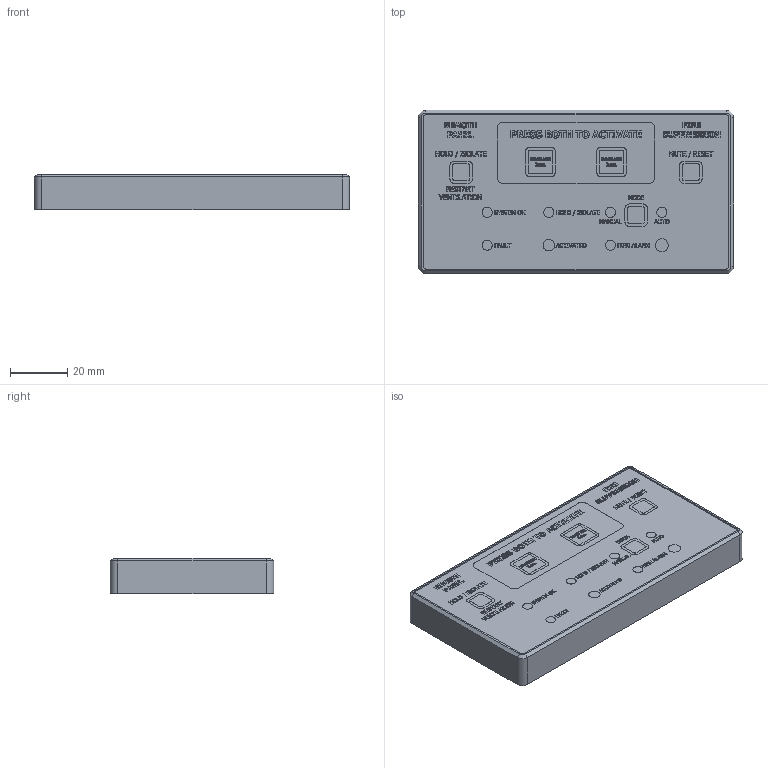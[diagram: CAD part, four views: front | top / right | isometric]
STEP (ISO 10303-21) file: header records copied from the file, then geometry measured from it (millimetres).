
FILE_DESCRIPTION(/* description */ ('FS10 Remote Panel'),/* implementation_level */ '2;1');
FILE_NAME(/* name */ '2878010012610.stp',/* time_stamp */ '2026-06-20T21:35:49+02:00',/* author */ ('tokti'),/* organization */ (''),/* preprocessor_version */ 'ST-DEVELOPER v20.1',/* originating_system */ 'Autodesk Inventor 2026',/* authorisation */ '');
FILE_SCHEMA (('AUTOMOTIVE_DESIGN { 1 0 10303 214 3 1 1 }'));
Products named in the file (3): 2878010012610; 287898010012609; 287898990012608
Assembly tree (2 placements, depth 2):
  2878010012610
    287898010012609
    287898990012608
Bounding box: 110 x 57 x 12.5 mm (x, y, z)
Volume: 75078.6 mm3; surface area: 29109.3 mm2
Topology: 7 solids, 7 shells, 2540 faces, 6863 edges, 4572 vertices
Faces by surface type: plane 1657, bspline 811, cylinder 66, cone 6
Full cylindrical faces by diameter (mm): 3.5 x6, 4 x3, 4.5 x1
Entity records: 85646 total; most frequent: CARTESIAN_POINT 24521, ORIENTED_EDGE 13722, DIRECTION 8843, EDGE_CURVE 6861, LINE 5103, VECTOR 5103, VERTEX_POINT 4572, EDGE_LOOP 2777
